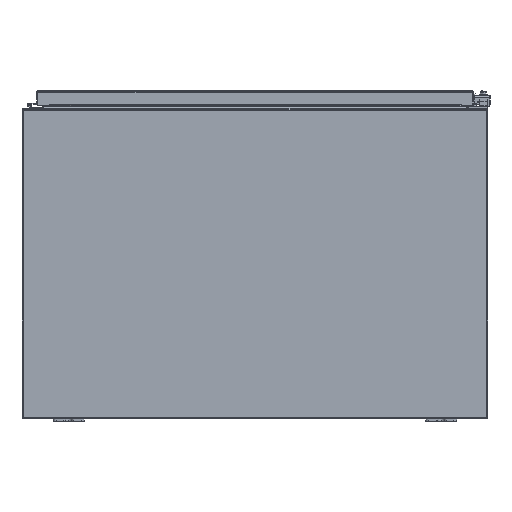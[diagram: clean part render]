
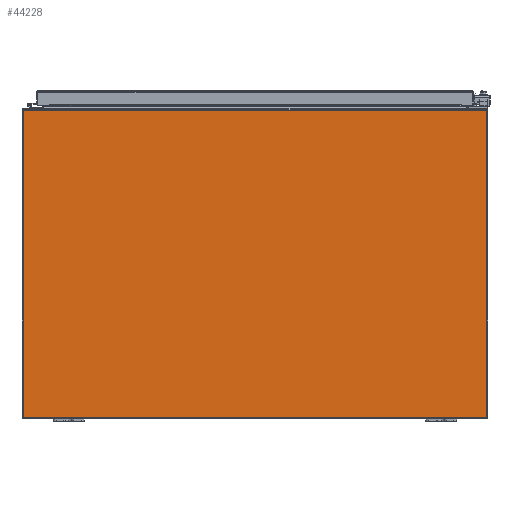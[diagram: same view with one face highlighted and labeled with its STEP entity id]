
A CAD part, front view. The second image highlights one B-rep face of the part: STEP entity #44228.
In plain terms, the highlighted planar face has unit normal (0, -1, 0).
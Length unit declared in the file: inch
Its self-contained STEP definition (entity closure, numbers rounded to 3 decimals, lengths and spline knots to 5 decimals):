
#44105 = EDGE_CURVE ( 'NONE', #44109, #44113, #83412, .T. ) ;
#44109 = VERTEX_POINT ( 'NONE', #83384 ) ;
#44113 = VERTEX_POINT ( 'NONE', #83380 ) ;
#44228 = ADVANCED_FACE ( 'NONE', ( #83739 ), #83738, .T. ) ;
#44230 = EDGE_LOOP ( 'NONE', ( #44237, #44250, #44258, #44261 ) ) ;
#44237 = ORIENTED_EDGE ( 'NONE', *, *, #44240, .F. ) ;
#44240 = EDGE_CURVE ( 'NONE', #44242, #44246, #83733, .T. ) ;
#44242 = VERTEX_POINT ( 'NONE', #83723 ) ;
#44246 = VERTEX_POINT ( 'NONE', #83722 ) ;
#44250 = ORIENTED_EDGE ( 'NONE', *, *, #44255, .F. ) ;
#44255 = EDGE_CURVE ( 'NONE', #44109, #44242, #83811, .T. ) ;
#44258 = ORIENTED_EDGE ( 'NONE', *, *, #44105, .T. ) ;
#44261 = ORIENTED_EDGE ( 'NONE', *, *, #45325, .T. ) ;
#45325 = EDGE_CURVE ( 'NONE', #44113, #44246, #85929, .T. ) ;
#83380 = CARTESIAN_POINT ( 'NONE',  ( -14.922, 0., 19.848 ) ) ;
#83384 = CARTESIAN_POINT ( 'NONE',  ( 14.922, 0., 19.848 ) ) ;
#83387 = DIRECTION ( 'NONE',  ( -1., 0., 0. ) ) ;
#83410 = VECTOR ( 'NONE', #83387, 39.37008 ) ;
#83411 = CARTESIAN_POINT ( 'NONE',  ( 15., 0., 19.848 ) ) ;
#83412 = LINE ( 'NONE', #83411, #83410 ) ;
#83697 = CARTESIAN_POINT ( 'NONE',  ( 15., 0., 0.078 ) ) ;
#83722 = CARTESIAN_POINT ( 'NONE',  ( -14.922, 0., 0.078 ) ) ;
#83723 = CARTESIAN_POINT ( 'NONE',  ( 14.922, 0., 0.078 ) ) ;
#83724 = DIRECTION ( 'NONE',  ( -1., 0., 0. ) ) ;
#83725 = VECTOR ( 'NONE', #83724, 39.37008 ) ;
#83733 = LINE ( 'NONE', #83697, #83725 ) ;
#83734 = DIRECTION ( 'NONE',  ( 0., 0., -1. ) ) ;
#83735 = DIRECTION ( 'NONE',  ( 0., -1., 0. ) ) ;
#83736 = CARTESIAN_POINT ( 'NONE',  ( 15., 0., 0.078 ) ) ;
#83737 = AXIS2_PLACEMENT_3D ( 'NONE', #83736, #83735, #83734 ) ;
#83738 = PLANE ( 'NONE',  #83737 ) ;
#83739 = FACE_OUTER_BOUND ( 'NONE', #44230, .T. ) ;
#83808 = DIRECTION ( 'NONE',  ( 0., 0., -1. ) ) ;
#83809 = VECTOR ( 'NONE', #83808, 39.37008 ) ;
#83810 = CARTESIAN_POINT ( 'NONE',  ( 14.922, 0., 0.078 ) ) ;
#83811 = LINE ( 'NONE', #83810, #83809 ) ;
#85929 = LINE ( 'NONE', #86031, #86030 ) ;
#86028 = DIRECTION ( 'NONE',  ( 0., 0., -1. ) ) ;
#86030 = VECTOR ( 'NONE', #86028, 39.37008 ) ;
#86031 = CARTESIAN_POINT ( 'NONE',  ( -14.922, 0., 20.928 ) ) ;
